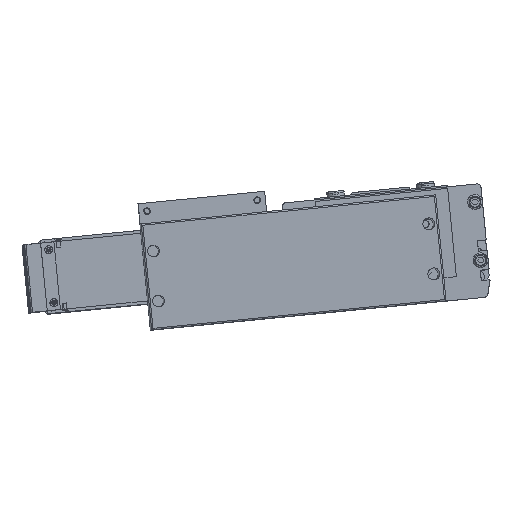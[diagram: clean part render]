
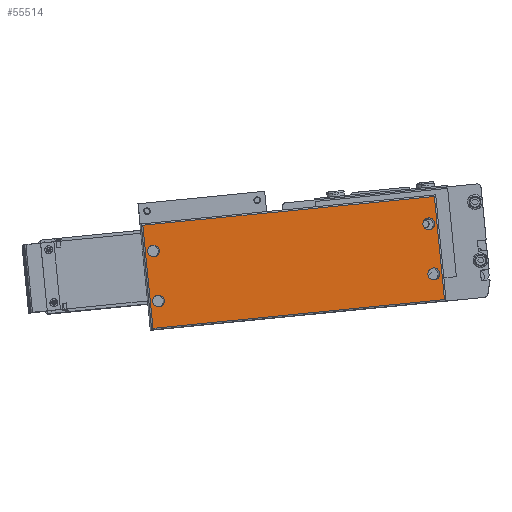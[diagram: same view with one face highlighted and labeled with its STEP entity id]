
A CAD part, top view. The second image highlights one B-rep face of the part: STEP entity #55514.
In plain terms, the highlighted planar face has unit normal (0.017, 0.003, 1) as drawn and (0, 0, 1) by its records, which use the part's own axes.
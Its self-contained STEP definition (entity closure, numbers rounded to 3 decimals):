
#109 = EDGE_CURVE ( 'NONE', #44454, #44789, #36777, .T. ) ;
#113 = ORIENTED_EDGE ( 'NONE', *, *, #54662, .F. ) ;
#116 = EDGE_CURVE ( 'NONE', #43473, #43142, #36770, .T. ) ;
#15198 = LINE ( 'NONE', #15314, #15312 ) ;
#15208 = CARTESIAN_POINT ( 'NONE',  ( -163.25, 71., 44. ) ) ;
#15221 = CARTESIAN_POINT ( 'NONE',  ( 34.75, 71., 44. ) ) ;
#15263 = VECTOR ( 'NONE', #15300, 1000. ) ;
#15265 = CARTESIAN_POINT ( 'NONE',  ( -164.25, 71., 44. ) ) ;
#15266 = LINE ( 'NONE', #15265, #15263 ) ;
#15273 = DIRECTION ( 'NONE',  ( 1., 0., 0. ) ) ;
#15274 = VECTOR ( 'NONE', #15273, 1000. ) ;
#15276 = CARTESIAN_POINT ( 'NONE',  ( 35.75, 1., 44. ) ) ;
#15287 = LINE ( 'NONE', #15276, #15274 ) ;
#15300 = DIRECTION ( 'NONE',  ( -1., 0., 0. ) ) ;
#15310 = DIRECTION ( 'NONE',  ( 0., -1., 0. ) ) ;
#15312 = VECTOR ( 'NONE', #15310, 1000. ) ;
#15314 = CARTESIAN_POINT ( 'NONE',  ( -163.25, 0., 44. ) ) ;
#15345 = CARTESIAN_POINT ( 'NONE',  ( -163.25, 1., 44. ) ) ;
#15377 = CARTESIAN_POINT ( 'NONE',  ( 34.75, 1., 44. ) ) ;
#15509 = DIRECTION ( 'NONE',  ( 0., 1., 0. ) ) ;
#15511 = VECTOR ( 'NONE', #15509, 1000. ) ;
#15513 = CARTESIAN_POINT ( 'NONE',  ( 34.75, 72., 44. ) ) ;
#15514 = LINE ( 'NONE', #15513, #15511 ) ;
#20962 = CIRCLE ( 'NONE', #21091, 4. ) ;
#21042 = CARTESIAN_POINT ( 'NONE',  ( -161.75, 19., 44. ) ) ;
#21086 = DIRECTION ( 'NONE',  ( 1., 0., 0. ) ) ;
#21087 = DIRECTION ( 'NONE',  ( 0., 0., 1. ) ) ;
#21091 = AXIS2_PLACEMENT_3D ( 'NONE', #21096, #21087, #21086 ) ;
#21096 = CARTESIAN_POINT ( 'NONE',  ( -157.75, 53., 44. ) ) ;
#21100 = DIRECTION ( 'NONE',  ( 1., 0., 0. ) ) ;
#21103 = DIRECTION ( 'NONE',  ( 0., 0., 1. ) ) ;
#21107 = AXIS2_PLACEMENT_3D ( 'NONE', #21125, #21103, #21100 ) ;
#21121 = CIRCLE ( 'NONE', #21107, 4. ) ;
#21125 = CARTESIAN_POINT ( 'NONE',  ( -157.75, 19., 44. ) ) ;
#21140 = CARTESIAN_POINT ( 'NONE',  ( -161.75, 53., 44. ) ) ;
#21151 = CARTESIAN_POINT ( 'NONE',  ( -153.75, 19., 44. ) ) ;
#21162 = CARTESIAN_POINT ( 'NONE',  ( -153.75, 53., 44. ) ) ;
#21197 = CARTESIAN_POINT ( 'NONE',  ( 33.25, 53., 44. ) ) ;
#21489 = CARTESIAN_POINT ( 'NONE',  ( 25.25, 53., 44. ) ) ;
#24099 = CIRCLE ( 'NONE', #24112, 4. ) ;
#24112 = AXIS2_PLACEMENT_3D ( 'NONE', #24197, #24195, #24193 ) ;
#24193 = DIRECTION ( 'NONE',  ( 1., 0., 0. ) ) ;
#24195 = DIRECTION ( 'NONE',  ( 0., 0., 1. ) ) ;
#24197 = CARTESIAN_POINT ( 'NONE',  ( 29.25, 53., 44. ) ) ;
#26472 = FACE_BOUND ( 'NONE', #55612, .T. ) ;
#26512 = DIRECTION ( 'NONE',  ( 1., 0., 0. ) ) ;
#26514 = DIRECTION ( 'NONE',  ( 0., 0., 1. ) ) ;
#26516 = CARTESIAN_POINT ( 'NONE',  ( -157.75, 19., 44. ) ) ;
#26521 = CIRCLE ( 'NONE', #26532, 4. ) ;
#26532 = AXIS2_PLACEMENT_3D ( 'NONE', #26516, #26514, #26512 ) ;
#26534 = DIRECTION ( 'NONE',  ( 1., 0., 0. ) ) ;
#26535 = DIRECTION ( 'NONE',  ( 0., 0., 1. ) ) ;
#26536 = CARTESIAN_POINT ( 'NONE',  ( -164.25, 0., 44. ) ) ;
#26553 = FACE_OUTER_BOUND ( 'NONE', #39357, .T. ) ;
#26554 = FACE_BOUND ( 'NONE', #67499, .T. ) ;
#26558 = PLANE ( 'NONE',  #26577 ) ;
#26560 = FACE_BOUND ( 'NONE', #55599, .T. ) ;
#26569 = FACE_BOUND ( 'NONE', #54856, .T. ) ;
#26577 = AXIS2_PLACEMENT_3D ( 'NONE', #26536, #26535, #26534 ) ;
#36720 = AXIS2_PLACEMENT_3D ( 'NONE', #36729, #36774, #36773 ) ;
#36729 = CARTESIAN_POINT ( 'NONE',  ( -157.75, 53., 44. ) ) ;
#36760 = DIRECTION ( 'NONE',  ( 1., 0., 0. ) ) ;
#36761 = DIRECTION ( 'NONE',  ( 0., 0., 1. ) ) ;
#36762 = AXIS2_PLACEMENT_3D ( 'NONE', #36771, #36761, #36760 ) ;
#36770 = CIRCLE ( 'NONE', #36762, 4. ) ;
#36771 = CARTESIAN_POINT ( 'NONE',  ( 29.25, 19., 44. ) ) ;
#36773 = DIRECTION ( 'NONE',  ( 1., 0., 0. ) ) ;
#36774 = DIRECTION ( 'NONE',  ( 0., 0., 1. ) ) ;
#36777 = CIRCLE ( 'NONE', #36720, 4. ) ;
#39357 = EDGE_LOOP ( 'NONE', ( #39374, #39380, #39397, #39375 ) ) ;
#39358 = VERTEX_POINT ( 'NONE', #15208 ) ;
#39367 = VERTEX_POINT ( 'NONE', #15221 ) ;
#39372 = EDGE_CURVE ( 'NONE', #39358, #39398, #15198, .T. ) ;
#39374 = ORIENTED_EDGE ( 'NONE', *, *, #39382, .T. ) ;
#39375 = ORIENTED_EDGE ( 'NONE', *, *, #39372, .T. ) ;
#39380 = ORIENTED_EDGE ( 'NONE', *, *, #39459, .T. ) ;
#39382 = EDGE_CURVE ( 'NONE', #39398, #39431, #15287, .T. ) ;
#39390 = EDGE_CURVE ( 'NONE', #39367, #39358, #15266, .T. ) ;
#39397 = ORIENTED_EDGE ( 'NONE', *, *, #39390, .T. ) ;
#39398 = VERTEX_POINT ( 'NONE', #15345 ) ;
#39431 = VERTEX_POINT ( 'NONE', #15377 ) ;
#39459 = EDGE_CURVE ( 'NONE', #39431, #39367, #15514, .T. ) ;
#43142 = VERTEX_POINT ( 'NONE', #61709 ) ;
#43143 = EDGE_CURVE ( 'NONE', #43142, #43473, #61607, .T. ) ;
#43473 = VERTEX_POINT ( 'NONE', #62289 ) ;
#43969 = VERTEX_POINT ( 'NONE', #21042 ) ;
#43982 = EDGE_CURVE ( 'NONE', #44789, #44454, #20962, .T. ) ;
#44359 = EDGE_CURVE ( 'NONE', #43969, #44495, #21121, .T. ) ;
#44444 = DIRECTION ( 'NONE',  ( 1., 0., 0. ) ) ;
#44445 = DIRECTION ( 'NONE',  ( 0., 0., 1. ) ) ;
#44446 = CARTESIAN_POINT ( 'NONE',  ( 29.25, 53., 44. ) ) ;
#44447 = AXIS2_PLACEMENT_3D ( 'NONE', #44446, #44445, #44444 ) ;
#44448 = CIRCLE ( 'NONE', #44447, 4. ) ;
#44454 = VERTEX_POINT ( 'NONE', #21162 ) ;
#44495 = VERTEX_POINT ( 'NONE', #21151 ) ;
#44789 = VERTEX_POINT ( 'NONE', #21140 ) ;
#44996 = VERTEX_POINT ( 'NONE', #21197 ) ;
#47901 = VERTEX_POINT ( 'NONE', #21489 ) ;
#48399 = EDGE_CURVE ( 'NONE', #47901, #44996, #24099, .T. ) ;
#54662 = EDGE_CURVE ( 'NONE', #44495, #43969, #26521, .T. ) ;
#54673 = ORIENTED_EDGE ( 'NONE', *, *, #116, .F. ) ;
#54856 = EDGE_LOOP ( 'NONE', ( #54673, #67524 ) ) ;
#54866 = ORIENTED_EDGE ( 'NONE', *, *, #65923, .F. ) ;
#55120 = ORIENTED_EDGE ( 'NONE', *, *, #109, .F. ) ;
#55514 = ADVANCED_FACE ( 'NONE', ( #26560, #26472, #26569, #26554, #26553 ), #26558, .T. ) ;
#55580 = ORIENTED_EDGE ( 'NONE', *, *, #43982, .F. ) ;
#55582 = ORIENTED_EDGE ( 'NONE', *, *, #44359, .F. ) ;
#55599 = EDGE_LOOP ( 'NONE', ( #55120, #55580 ) ) ;
#55612 = EDGE_LOOP ( 'NONE', ( #113, #55582 ) ) ;
#61607 = CIRCLE ( 'NONE', #61703, 4. ) ;
#61695 = DIRECTION ( 'NONE',  ( 1., 0., 0. ) ) ;
#61696 = DIRECTION ( 'NONE',  ( 0., 0., 1. ) ) ;
#61697 = CARTESIAN_POINT ( 'NONE',  ( 29.25, 19., 44. ) ) ;
#61703 = AXIS2_PLACEMENT_3D ( 'NONE', #61697, #61696, #61695 ) ;
#61709 = CARTESIAN_POINT ( 'NONE',  ( 25.25, 19., 44. ) ) ;
#62289 = CARTESIAN_POINT ( 'NONE',  ( 33.25, 19., 44. ) ) ;
#65923 = EDGE_CURVE ( 'NONE', #44996, #47901, #44448, .T. ) ;
#65925 = ORIENTED_EDGE ( 'NONE', *, *, #48399, .F. ) ;
#67499 = EDGE_LOOP ( 'NONE', ( #54866, #65925 ) ) ;
#67524 = ORIENTED_EDGE ( 'NONE', *, *, #43143, .F. ) ;
